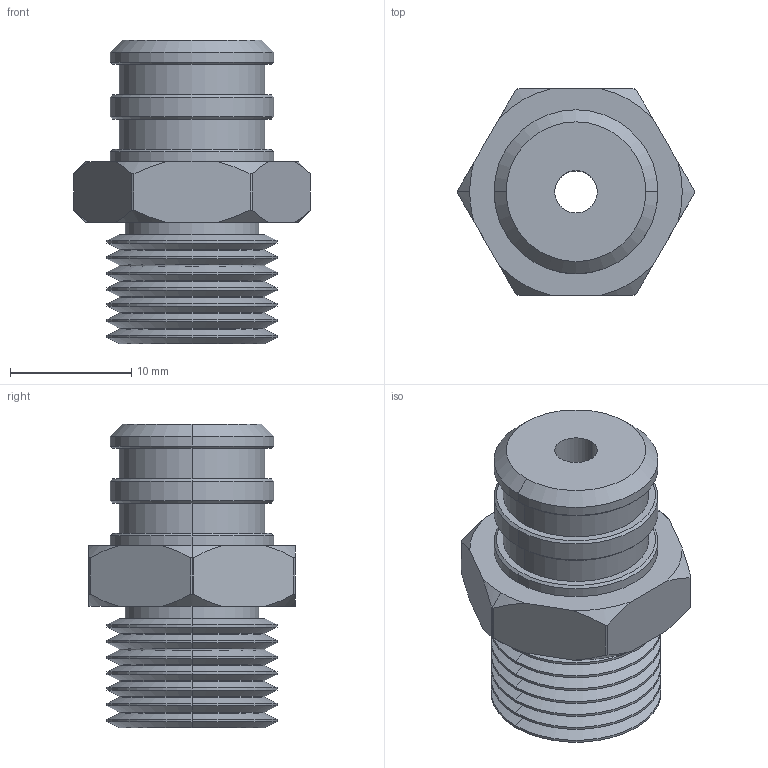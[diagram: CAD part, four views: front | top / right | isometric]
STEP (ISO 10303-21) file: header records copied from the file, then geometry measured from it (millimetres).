
FILE_DESCRIPTION (( 'STEP AP214' ), '1' );
FILE_NAME ('VM06-G14.STEP', '2019-11-14T02:15:26', ( '微软用户' ), ( '微软中国' ), 'SwSTEP 2.0', 'SolidWorks 2016', '' );
FILE_SCHEMA (( 'AUTOMOTIVE_DESIGN' ));
Length unit declared in the file: millimetre
Products named in the file (1): VM06-G14
Bounding box: 19.5 x 17 x 25 mm (x, y, z)
Volume: 3567.9 mm3; surface area: 2296.4 mm2
Topology: 1 solids, 1 shells, 116 faces, 256 edges, 149 vertices
Faces by surface type: cone 54, cylinder 47, plane 15
Entity records: 3283 total; most frequent: CARTESIAN_POINT 650, DIRECTION 591, ORIENTED_EDGE 512, EDGE_CURVE 256, AXIS2_PLACEMENT_3D 242, VERTEX_POINT 149, EDGE_LOOP 125, CIRCLE 125
